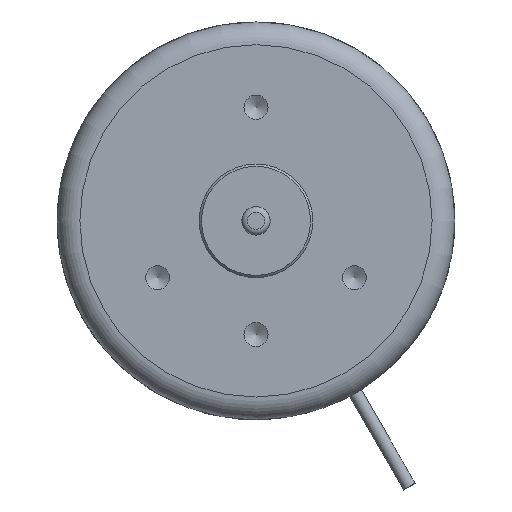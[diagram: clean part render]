
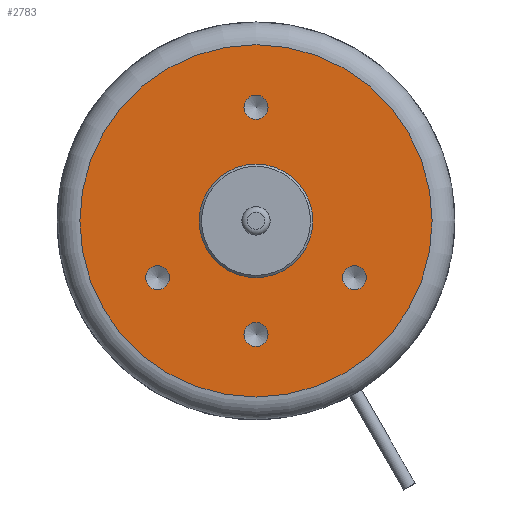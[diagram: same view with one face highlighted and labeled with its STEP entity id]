
A CAD part, front view. The second image highlights one B-rep face of the part: STEP entity #2783.
In plain terms, the highlighted planar face has unit normal (0, -1, 0).
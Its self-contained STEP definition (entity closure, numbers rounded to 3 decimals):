
#2371=CARTESIAN_POINT('',(1.057,0.0,-10.0));
#2372=VERTEX_POINT('',#2371);
#2373=CARTESIAN_POINT('',(0.0,0.0,-10.0));
#2374=DIRECTION('',(0.0,1.0,0.0));
#2375=DIRECTION('',(1.0,0.0,0.0));
#2376=AXIS2_PLACEMENT_3D('',#2373,#2374,#2375);
#2377=CIRCLE('',#2376,1.057);
#2378=EDGE_CURVE('',#2372,#2372,#2377,.T.);
#2450=CARTESIAN_POINT('',(1.057,0.0,10.0));
#2451=VERTEX_POINT('',#2450);
#2452=CARTESIAN_POINT('',(0.0,0.0,10.0));
#2453=DIRECTION('',(0.0,1.0,0.0));
#2454=DIRECTION('',(1.0,0.0,0.0));
#2455=AXIS2_PLACEMENT_3D('',#2452,#2453,#2454);
#2456=CIRCLE('',#2455,1.057);
#2457=EDGE_CURVE('',#2451,#2451,#2456,.T.);
#2529=CARTESIAN_POINT('',(-7.604,0.0,-5.));
#2530=VERTEX_POINT('',#2529);
#2531=CARTESIAN_POINT('',(-8.66,0.0,-5.));
#2532=DIRECTION('',(0.0,1.0,0.0));
#2533=DIRECTION('',(1.0,0.0,0.0));
#2534=AXIS2_PLACEMENT_3D('',#2531,#2532,#2533);
#2535=CIRCLE('',#2534,1.057);
#2536=EDGE_CURVE('',#2530,#2530,#2535,.T.);
#2608=CARTESIAN_POINT('',(9.717,0.0,-5.));
#2609=VERTEX_POINT('',#2608);
#2610=CARTESIAN_POINT('',(8.66,0.0,-5.));
#2611=DIRECTION('',(0.0,1.0,0.0));
#2612=DIRECTION('',(1.0,0.0,0.0));
#2613=AXIS2_PLACEMENT_3D('',#2610,#2611,#2612);
#2614=CIRCLE('',#2613,1.057);
#2615=EDGE_CURVE('',#2609,#2609,#2614,.T.);
#2713=CARTESIAN_POINT('',(5.0,0.0,0.));
#2714=VERTEX_POINT('',#2713);
#2715=CARTESIAN_POINT('',(0.0,0.0,0.0));
#2716=DIRECTION('',(0.0,1.0,0.0));
#2717=DIRECTION('',(-1.0,0.0,0.0));
#2718=AXIS2_PLACEMENT_3D('',#2715,#2716,#2717);
#2719=CIRCLE('',#2718,5.0);
#2720=EDGE_CURVE('',#2714,#2714,#2719,.T.);
#2748=CARTESIAN_POINT('',(-15.5,0.0,0.));
#2749=VERTEX_POINT('',#2748);
#2750=CARTESIAN_POINT('',(0.0,0.0,0.0));
#2751=DIRECTION('',(0.0,1.0,0.0));
#2752=DIRECTION('',(1.0,0.0,0.0));
#2753=AXIS2_PLACEMENT_3D('',#2750,#2751,#2752);
#2754=CIRCLE('',#2753,15.5);
#2755=EDGE_CURVE('',#2749,#2749,#2754,.T.);
#2760=CARTESIAN_POINT('',(0.0,0.0,0.0));
#2761=DIRECTION('',(0.0,-1.0,0.0));
#2762=DIRECTION('',(0.0,0.0,-1.0));
#2763=AXIS2_PLACEMENT_3D('',#2760,#2761,#2762);
#2764=PLANE('',#2763);
#2765=ORIENTED_EDGE('',*,*,#2755,.F.);
#2766=EDGE_LOOP('',(#2765));
#2767=FACE_OUTER_BOUND('',#2766,.T.);
#2768=ORIENTED_EDGE('',*,*,#2378,.T.);
#2769=EDGE_LOOP('',(#2768));
#2770=FACE_BOUND('',#2769,.T.);
#2771=ORIENTED_EDGE('',*,*,#2457,.T.);
#2772=EDGE_LOOP('',(#2771));
#2773=FACE_BOUND('',#2772,.T.);
#2774=ORIENTED_EDGE('',*,*,#2536,.T.);
#2775=EDGE_LOOP('',(#2774));
#2776=FACE_BOUND('',#2775,.T.);
#2777=ORIENTED_EDGE('',*,*,#2615,.T.);
#2778=EDGE_LOOP('',(#2777));
#2779=FACE_BOUND('',#2778,.T.);
#2780=ORIENTED_EDGE('',*,*,#2720,.T.);
#2781=EDGE_LOOP('',(#2780));
#2782=FACE_BOUND('',#2781,.T.);
#2783=ADVANCED_FACE('',(#2767,#2770,#2773,#2776,#2779,#2782),#2764,.T.);
